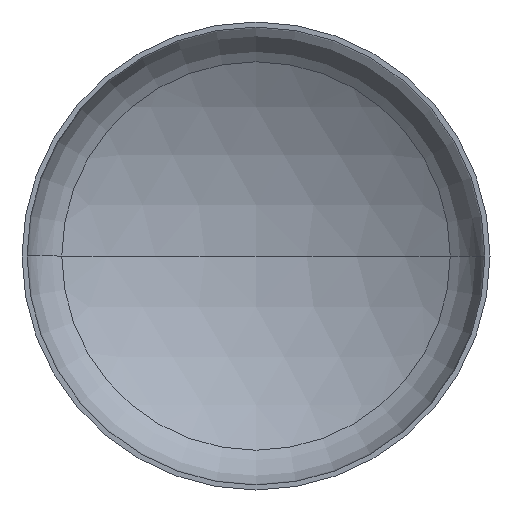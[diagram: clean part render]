
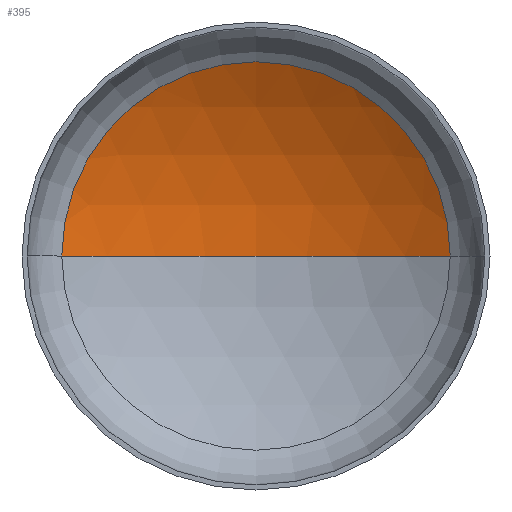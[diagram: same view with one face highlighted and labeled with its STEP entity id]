
A CAD part, front view. The second image highlights one B-rep face of the part: STEP entity #395.
In plain terms, the highlighted spherical face has radius 2880 mm.
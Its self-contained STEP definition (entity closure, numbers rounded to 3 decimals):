
#20 = EDGE_LOOP ( 'NONE', ( #51, #219, #36 ) ) ;
#34 = DIRECTION ( 'NONE',  ( 1., 0., 0. ) ) ;
#36 = ORIENTED_EDGE ( 'NONE', *, *, #174, .T. ) ;
#38 = VERTEX_POINT ( 'NONE', #290 ) ;
#40 = DIRECTION ( 'NONE',  ( 0., 0., 1. ) ) ;
#45 = AXIS2_PLACEMENT_3D ( 'NONE', #177, #40, #34 ) ;
#48 = AXIS2_PLACEMENT_3D ( 'NONE', #223, #265, #260 ) ;
#51 = ORIENTED_EDGE ( 'NONE', *, *, #192, .F. ) ;
#52 = AXIS2_PLACEMENT_3D ( 'NONE', #194, #202, #204 ) ;
#69 = CIRCLE ( 'NONE', #48, 2880. ) ;
#78 = DIRECTION ( 'NONE',  ( -1., 0., 0. ) ) ;
#119 = VERTEX_POINT ( 'NONE', #369 ) ;
#145 = VERTEX_POINT ( 'NONE', #217 ) ;
#174 = EDGE_CURVE ( 'NONE', #119, #38, #304, .T. ) ;
#177 = CARTESIAN_POINT ( 'NONE',  ( 0., -1867.76, 0. ) ) ;
#182 = EDGE_CURVE ( 'NONE', #145, #119, #69, .T. ) ;
#192 = EDGE_CURVE ( 'NONE', #145, #38, #241, .T. ) ;
#194 = CARTESIAN_POINT ( 'NONE',  ( 0., 594.497, 0. ) ) ;
#199 = AXIS2_PLACEMENT_3D ( 'NONE', #386, #324, #78 ) ;
#202 = DIRECTION ( 'NONE',  ( 0., -1., 0. ) ) ;
#204 = DIRECTION ( 'NONE',  ( 1., 0., 0. ) ) ;
#217 = CARTESIAN_POINT ( 'NONE',  ( 0., 1012.24, 0. ) ) ;
#219 = ORIENTED_EDGE ( 'NONE', *, *, #182, .T. ) ;
#223 = CARTESIAN_POINT ( 'NONE',  ( 0., -1867.76, 0. ) ) ;
#241 = CIRCLE ( 'NONE', #45, 2880. ) ;
#259 = SPHERICAL_SURFACE ( 'NONE', #199, 2880. ) ;
#260 = DIRECTION ( 'NONE',  ( -1., 0., 0. ) ) ;
#265 = DIRECTION ( 'NONE',  ( 0., 0., -1. ) ) ;
#290 = CARTESIAN_POINT ( 'NONE',  ( -1493.884, 594.497, 0. ) ) ;
#304 = CIRCLE ( 'NONE', #52, 1493.884 ) ;
#324 = DIRECTION ( 'NONE',  ( 0., 0., -1. ) ) ;
#369 = CARTESIAN_POINT ( 'NONE',  ( 1493.884, 594.497, 0. ) ) ;
#377 = FACE_OUTER_BOUND ( 'NONE', #20, .T. ) ;
#386 = CARTESIAN_POINT ( 'NONE',  ( 0., -1867.76, 0. ) ) ;
#395 = ADVANCED_FACE ( 'NONE', ( #377 ), #259, .F. ) ;
